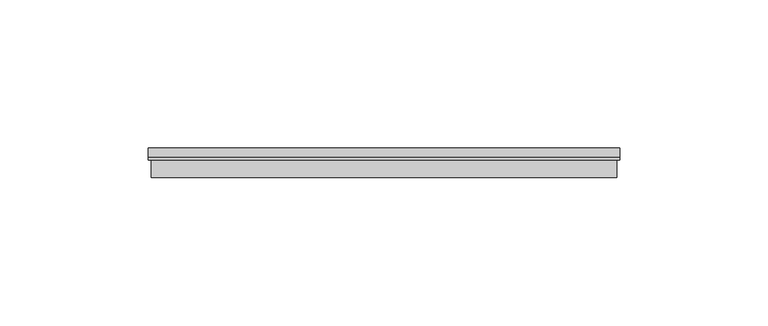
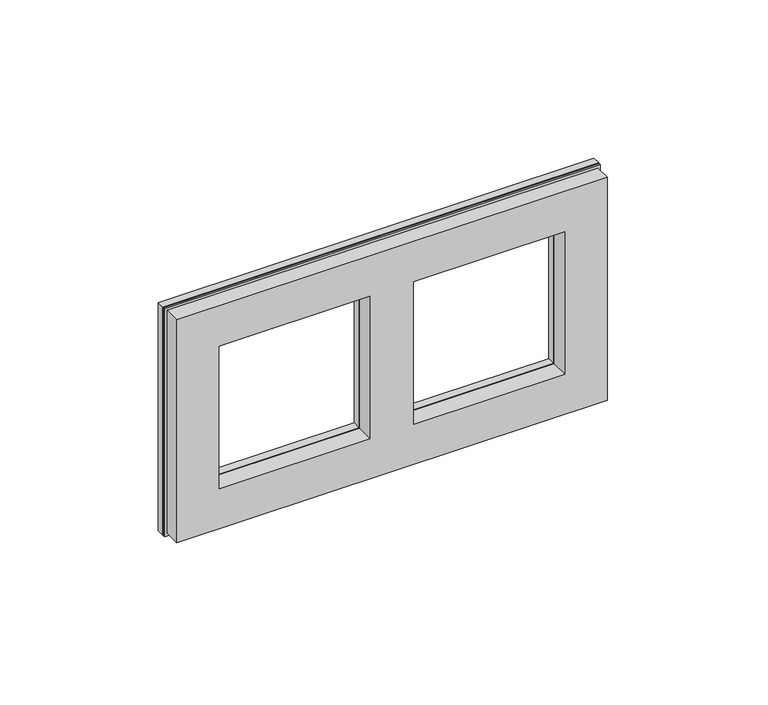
"""IFC4 building model written with IfcOpenShell, lengths in millimetres: proxy geometry, IEK_Brite_Рамка : x2_РУ-2-2-Бр стекло бел. матовый."""

from ifc_helpers import new_model, si_unit, frame, origin, place, context, project, spatial, polyline, outline, extrude, faceted_brep, source, transform, mapped, element, save


def electrical_fixtures_1861e07e(model_context):
    return source(origin(), model_context, "Body", "SolidModel", [
        extrude(outline(polyline([(44.0, -115.0), (-44.0, -115.0), (-44.0, 44.0), (44.0, 44.0), (44.0, -115.0)]), holes=[polyline([(-27.5, -98.5), (27.5, -98.5), (27.5, -43.5), (-27.5, -43.5), (-27.5, -98.5)]), polyline([(-27.5, -27.5), (27.5, -27.5), (27.5, 27.5), (-27.5, 27.5), (-27.5, -27.5)])]), frame((0.0, 7.0, 0.0), z_axis=(0.0, 1.0, 0.0), x_axis=(0.0, 0.0, 1.0)), (0.0, 0.0, 1.0), 3.0),
        faceted_brep([(-115.0, 7.0, 44.0), (44.0, 7.0, 44.0), (44.0, 7.0, -44.0), (-115.0, 7.0, -44.0), (-98.5, 7.0, 27.5), (-98.5, 7.0, -27.5), (-43.5, 7.0, -27.5), (-43.5, 7.0, 27.5), (-27.5, 7.0, 27.5), (-27.5, 7.0, -27.5), (27.5, 7.0, -27.5), (27.5, 7.0, 27.5), (-114.0, 0.0, 43.0), (-114.0, 0.0, -43.0), (43.0, 0.0, -43.0), (43.0, 0.0, 43.0), (-98.5, 0.0, -27.5), (-98.5, 0.0, 27.5), (-43.5, 0.0, 27.5), (-43.5, 0.0, -27.5), (-27.5, 0.0, -27.5), (-27.5, 0.0, 27.5), (27.5, 0.0, 27.5), (27.5, 0.0, -27.5), (-114.0, 6.0, 43.0), (-114.0, 6.0, -43.0), (43.0, 6.0, -43.0), (43.0, 6.0, 43.0), (-115.0, 6.0, 44.0), (-115.0, 6.0, -44.0), (44.0, 6.0, -44.0), (44.0, 6.0, 44.0)], [[[0, 1, 2, 3], [4, 5, 6, 7], [8, 9, 10, 11]], [[12, 13, 14, 15], [16, 17, 18, 19], [20, 21, 22, 23]], [[13, 12, 24, 25]], [[14, 13, 25, 26]], [[15, 14, 26, 27]], [[12, 15, 27, 24]], [[28, 29, 30, 31], [25, 24, 27, 26]], [[29, 28, 0, 3]], [[30, 29, 3, 2]], [[31, 30, 2, 1]], [[28, 31, 1, 0]], [[4, 17, 16, 5]], [[5, 16, 19, 6]], [[6, 19, 18, 7]], [[17, 4, 7, 18]], [[8, 21, 20, 9]], [[9, 20, 23, 10]], [[10, 23, 22, 11]], [[21, 8, 11, 22]]]),
    ])


if __name__ == "__main__":
    model = new_model("IFC4")
    model_context = context("Model", 3, world=origin())
    ifc_project = project(units=[si_unit("LENGTHUNIT", "METRE", prefix="MILLI")], contexts=[model_context])
    site = spatial("IfcSite", under=ifc_project)
    building = spatial("IfcBuilding", under=site)
    placement = place(None, origin())
    electrical_fixtures_shape = electrical_fixtures_1861e07e(model_context)
    element("IfcBuildingElementProxy", 1, Name="IEK_Brite_Рамка : x2_РУ-2-2-Бр стекло бел. матовый", ObjectType="IEK_Brite_Рамка : x2_РУ-2-2-Бр стекло бел. матовый", at=placement, inside=building, context=model_context, shape_type="MappedRepresentation", body=[
        mapped(electrical_fixtures_shape, transform((0.0, 0.0, 0.0), x_axis=(1.0, 0.0, 0.0), y_axis=(0.0, 1.0, 0.0), z_axis=(0.0, 0.0, 1.0))),
    ])
    save(model, "model.ifc")
